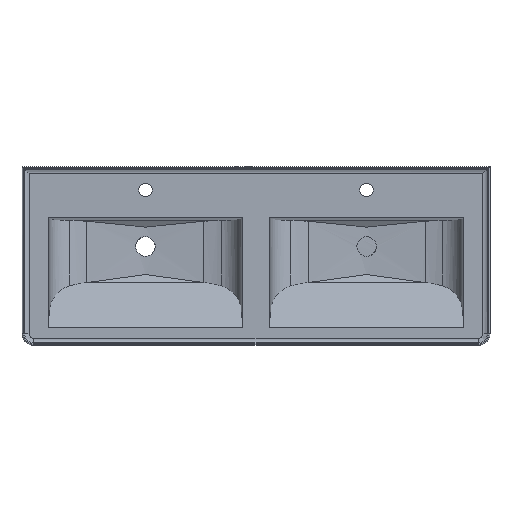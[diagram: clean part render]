
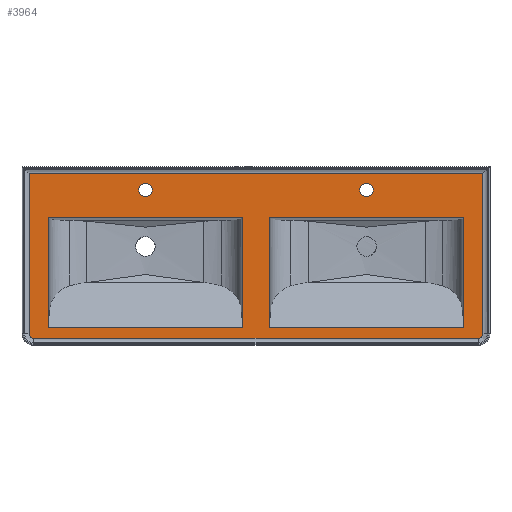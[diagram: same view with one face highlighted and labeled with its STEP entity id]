
A CAD part, top view. The second image highlights one B-rep face of the part: STEP entity #3964.
In plain terms, the highlighted planar face has unit normal (0, 0, 1).
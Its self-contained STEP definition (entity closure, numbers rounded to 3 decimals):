
#3254 = EDGE_CURVE('',#3255,#3257,#3259,.T.);
#3255 = VERTEX_POINT('',#3256);
#3256 = CARTESIAN_POINT('',(-34.039,-208.003,
    45.));
#3257 = VERTEX_POINT('',#3258);
#3258 = CARTESIAN_POINT('',(-34.039,75.115,
    45.));
#3259 = LINE('',#3260,#3261);
#3260 = CARTESIAN_POINT('',(-34.039,75.115,
    45.));
#3261 = VECTOR('',#3262,1.);
#3262 = DIRECTION('',(0.,1.,0.));
#3285 = EDGE_CURVE('',#3286,#3288,#3290,.T.);
#3286 = VERTEX_POINT('',#3287);
#3287 = CARTESIAN_POINT('',(-533.961,75.115,45.));
#3288 = VERTEX_POINT('',#3289);
#3289 = CARTESIAN_POINT('',(-533.961,-208.003,
    45.));
#3290 = LINE('',#3291,#3292);
#3291 = CARTESIAN_POINT('',(-533.961,-208.003,
    45.));
#3292 = VECTOR('',#3293,1.);
#3293 = DIRECTION('',(0.,-1.,0.));
#3349 = EDGE_CURVE('',#3288,#3255,#3350,.T.);
#3350 = LINE('',#3351,#3352);
#3351 = CARTESIAN_POINT('',(-34.039,-208.003,
    45.));
#3352 = VECTOR('',#3353,1.);
#3353 = DIRECTION('',(1.,0.,0.));
#3377 = EDGE_CURVE('',#3257,#3286,#3378,.T.);
#3378 = LINE('',#3379,#3380);
#3379 = CARTESIAN_POINT('',(-533.961,75.115,45.));
#3380 = VECTOR('',#3381,1.);
#3381 = DIRECTION('',(-1.,0.,0.));
#3427 = EDGE_CURVE('',#3428,#3430,#3432,.T.);
#3428 = VERTEX_POINT('',#3429);
#3429 = CARTESIAN_POINT('',(34.039,-208.003,
    45.));
#3430 = VERTEX_POINT('',#3431);
#3431 = CARTESIAN_POINT('',(533.961,-208.003,
    45.));
#3432 = LINE('',#3433,#3434);
#3433 = CARTESIAN_POINT('',(533.961,-208.003,
    45.));
#3434 = VECTOR('',#3435,1.);
#3435 = DIRECTION('',(1.,0.,0.));
#3521 = EDGE_CURVE('',#3522,#3524,#3526,.T.);
#3522 = VERTEX_POINT('',#3523);
#3523 = CARTESIAN_POINT('',(533.961,75.115,
    45.));
#3524 = VERTEX_POINT('',#3525);
#3525 = CARTESIAN_POINT('',(34.039,75.115,
    45.));
#3526 = LINE('',#3527,#3528);
#3527 = CARTESIAN_POINT('',(34.039,75.115,
    45.));
#3528 = VECTOR('',#3529,1.);
#3529 = DIRECTION('',(-1.,0.,0.));
#3964 = ADVANCED_FACE('',(#3965,#4017,#4023,#4039,#4059),#4079,.T.);
#3965 = FACE_BOUND('',#3966,.T.);
#3966 = EDGE_LOOP('',(#3967,#3977,#3985,#3993,#4002,#4010));
#3967 = ORIENTED_EDGE('',*,*,#3968,.F.);
#3968 = EDGE_CURVE('',#3969,#3971,#3973,.T.);
#3969 = VERTEX_POINT('',#3970);
#3970 = CARTESIAN_POINT('',(582.918,186.997,
    45.));
#3971 = VERTEX_POINT('',#3972);
#3972 = CARTESIAN_POINT('',(582.918,-223.921,
    45.));
#3973 = LINE('',#3974,#3975);
#3974 = CARTESIAN_POINT('',(582.918,186.997,
    45.));
#3975 = VECTOR('',#3976,1.);
#3976 = DIRECTION('',(0.,-1.,0.));
#3977 = ORIENTED_EDGE('',*,*,#3978,.T.);
#3978 = EDGE_CURVE('',#3969,#3979,#3981,.T.);
#3979 = VERTEX_POINT('',#3980);
#3980 = CARTESIAN_POINT('',(-582.918,186.997,
    45.));
#3981 = LINE('',#3982,#3983);
#3982 = CARTESIAN_POINT('',(-582.918,186.997,
    45.));
#3983 = VECTOR('',#3984,1.);
#3984 = DIRECTION('',(-1.,0.,0.));
#3985 = ORIENTED_EDGE('',*,*,#3986,.F.);
#3986 = EDGE_CURVE('',#3987,#3979,#3989,.T.);
#3987 = VERTEX_POINT('',#3988);
#3988 = CARTESIAN_POINT('',(-582.918,-223.921,
    45.));
#3989 = LINE('',#3990,#3991);
#3990 = CARTESIAN_POINT('',(-582.918,-223.921,
    45.));
#3991 = VECTOR('',#3992,1.);
#3992 = DIRECTION('',(0.,1.,0.));
#3993 = ORIENTED_EDGE('',*,*,#3994,.F.);
#3994 = EDGE_CURVE('',#3995,#3987,#3997,.T.);
#3995 = VERTEX_POINT('',#3996);
#3996 = CARTESIAN_POINT('',(-570.918,-235.921,
    45.));
#3997 = CIRCLE('',#3998,12.);
#3998 = AXIS2_PLACEMENT_3D('',#3999,#4000,#4001);
#3999 = CARTESIAN_POINT('',(-570.918,-223.921,
    45.));
#4000 = DIRECTION('',(0.,0.,-1.));
#4001 = DIRECTION('',(0.,-1.,0.));
#4002 = ORIENTED_EDGE('',*,*,#4003,.F.);
#4003 = EDGE_CURVE('',#4004,#3995,#4006,.T.);
#4004 = VERTEX_POINT('',#4005);
#4005 = CARTESIAN_POINT('',(570.918,-235.921,
    45.));
#4006 = LINE('',#4007,#4008);
#4007 = CARTESIAN_POINT('',(570.918,-235.921,
    45.));
#4008 = VECTOR('',#4009,1.);
#4009 = DIRECTION('',(-1.,0.,0.));
#4010 = ORIENTED_EDGE('',*,*,#4011,.F.);
#4011 = EDGE_CURVE('',#3971,#4004,#4012,.T.);
#4012 = CIRCLE('',#4013,12.);
#4013 = AXIS2_PLACEMENT_3D('',#4014,#4015,#4016);
#4014 = CARTESIAN_POINT('',(570.918,-223.921,
    45.));
#4015 = DIRECTION('',(0.,0.,-1.));
#4016 = DIRECTION('',(1.,0.,0.));
#4017 = FACE_BOUND('',#4018,.T.);
#4018 = EDGE_LOOP('',(#4019,#4020,#4021,#4022));
#4019 = ORIENTED_EDGE('',*,*,#3254,.F.);
#4020 = ORIENTED_EDGE('',*,*,#3349,.F.);
#4021 = ORIENTED_EDGE('',*,*,#3285,.F.);
#4022 = ORIENTED_EDGE('',*,*,#3377,.F.);
#4023 = FACE_BOUND('',#4024,.T.);
#4024 = EDGE_LOOP('',(#4025,#4031,#4032,#4038));
#4025 = ORIENTED_EDGE('',*,*,#4026,.T.);
#4026 = EDGE_CURVE('',#3522,#3430,#4027,.T.);
#4027 = LINE('',#4028,#4029);
#4028 = CARTESIAN_POINT('',(533.961,75.115,
    45.));
#4029 = VECTOR('',#4030,1.);
#4030 = DIRECTION('',(0.,-1.,0.));
#4031 = ORIENTED_EDGE('',*,*,#3427,.F.);
#4032 = ORIENTED_EDGE('',*,*,#4033,.T.);
#4033 = EDGE_CURVE('',#3428,#3524,#4034,.T.);
#4034 = LINE('',#4035,#4036);
#4035 = CARTESIAN_POINT('',(34.039,-208.003,
    45.));
#4036 = VECTOR('',#4037,1.);
#4037 = DIRECTION('',(0.,1.,0.));
#4038 = ORIENTED_EDGE('',*,*,#3521,.F.);
#4039 = FACE_BOUND('',#4040,.T.);
#4040 = EDGE_LOOP('',(#4041,#4052));
#4041 = ORIENTED_EDGE('',*,*,#4042,.T.);
#4042 = EDGE_CURVE('',#4043,#4045,#4047,.T.);
#4043 = VERTEX_POINT('',#4044);
#4044 = CARTESIAN_POINT('',(-266.5,144.997,
    45.));
#4045 = VERTEX_POINT('',#4046);
#4046 = CARTESIAN_POINT('',(-301.5,144.997,
    45.));
#4047 = CIRCLE('',#4048,17.5);
#4048 = AXIS2_PLACEMENT_3D('',#4049,#4050,#4051);
#4049 = CARTESIAN_POINT('',(-284.,144.997,
    45.));
#4050 = DIRECTION('',(0.,0.,-1.));
#4051 = DIRECTION('',(1.,0.,0.));
#4052 = ORIENTED_EDGE('',*,*,#4053,.T.);
#4053 = EDGE_CURVE('',#4045,#4043,#4054,.T.);
#4054 = CIRCLE('',#4055,17.5);
#4055 = AXIS2_PLACEMENT_3D('',#4056,#4057,#4058);
#4056 = CARTESIAN_POINT('',(-284.,144.997,
    45.));
#4057 = DIRECTION('',(0.,0.,-1.));
#4058 = DIRECTION('',(1.,0.,0.));
#4059 = FACE_BOUND('',#4060,.T.);
#4060 = EDGE_LOOP('',(#4061,#4072));
#4061 = ORIENTED_EDGE('',*,*,#4062,.T.);
#4062 = EDGE_CURVE('',#4063,#4065,#4067,.T.);
#4063 = VERTEX_POINT('',#4064);
#4064 = CARTESIAN_POINT('',(266.5,144.997,
    45.));
#4065 = VERTEX_POINT('',#4066);
#4066 = CARTESIAN_POINT('',(301.5,144.997,
    45.));
#4067 = CIRCLE('',#4068,17.5);
#4068 = AXIS2_PLACEMENT_3D('',#4069,#4070,#4071);
#4069 = CARTESIAN_POINT('',(284.,144.997,
    45.));
#4070 = DIRECTION('',(0.,0.,-1.));
#4071 = DIRECTION('',(-1.,0.,0.));
#4072 = ORIENTED_EDGE('',*,*,#4073,.T.);
#4073 = EDGE_CURVE('',#4065,#4063,#4074,.T.);
#4074 = CIRCLE('',#4075,17.5);
#4075 = AXIS2_PLACEMENT_3D('',#4076,#4077,#4078);
#4076 = CARTESIAN_POINT('',(284.,144.997,
    45.));
#4077 = DIRECTION('',(0.,0.,-1.));
#4078 = DIRECTION('',(-1.,0.,0.));
#4079 = PLANE('',#4080);
#4080 = AXIS2_PLACEMENT_3D('',#4081,#4082,#4083);
#4081 = CARTESIAN_POINT('',(-21.,-228.921,
    45.));
#4082 = DIRECTION('',(0.,0.,1.));
#4083 = DIRECTION('',(0.,1.,0.));
